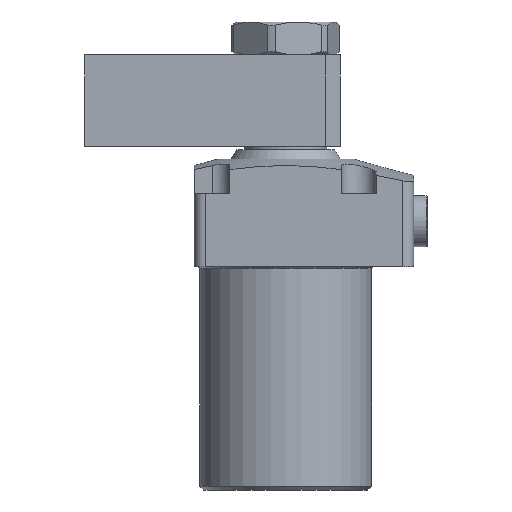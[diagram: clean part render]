
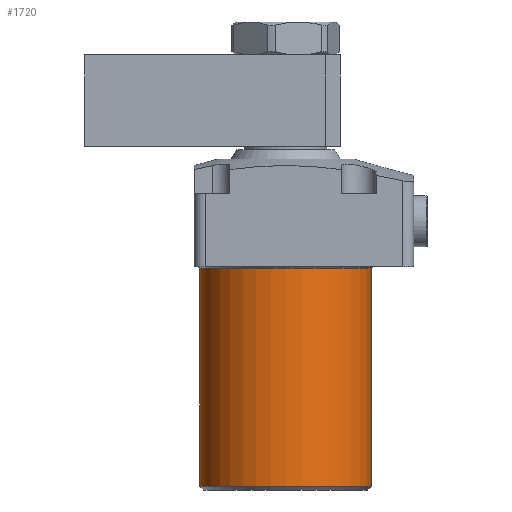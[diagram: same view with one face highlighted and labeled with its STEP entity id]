
A CAD part, front view. The second image highlights one B-rep face of the part: STEP entity #1720.
In plain terms, the highlighted cylindrical face has radius 23.5 mm (diameter 47 mm), a full revolution.
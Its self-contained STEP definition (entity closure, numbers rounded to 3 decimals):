
#1223=FACE_BOUND('',#2046,.T.);
#1224=FACE_BOUND('',#2047,.T.);
#1335=CYLINDRICAL_SURFACE('',#3925,23.5);
#1720=ADVANCED_FACE('',(#1223,#1224),#1335,.T.);
#2046=EDGE_LOOP('',(#2534));
#2047=EDGE_LOOP('',(#2535));
#2534=ORIENTED_EDGE('',*,*,#3318,.T.);
#2535=ORIENTED_EDGE('',*,*,#3319,.T.);
#3042=VERTEX_POINT('',#5373);
#3043=VERTEX_POINT('',#5375);
#3318=EDGE_CURVE('',#3042,#3042,#3556,.T.);
#3319=EDGE_CURVE('',#3043,#3043,#3557,.T.);
#3556=CIRCLE('',#3923,23.5);
#3557=CIRCLE('',#3924,23.5);
#3923=AXIS2_PLACEMENT_3D('',#5372,#4379,#4380);
#3924=AXIS2_PLACEMENT_3D('',#5374,#4381,#4382);
#3925=AXIS2_PLACEMENT_3D('',#5376,#4383,#4384);
#4379=DIRECTION('',(0.,0.,-1.));
#4380=DIRECTION('',(0.,-1.,0.));
#4381=DIRECTION('',(0.,0.,1.));
#4382=DIRECTION('',(0.,-1.,0.));
#4383=DIRECTION('',(0.,0.,-1.));
#4384=DIRECTION('',(0.,1.,0.));
#5372=CARTESIAN_POINT('',(0.,46.5,14.1));
#5373=CARTESIAN_POINT('',(0.,23.,14.1));
#5374=CARTESIAN_POINT('',(0.,46.5,-45.5));
#5375=CARTESIAN_POINT('',(0.,23.,-45.5));
#5376=CARTESIAN_POINT('',(0.,46.5,14.5));
